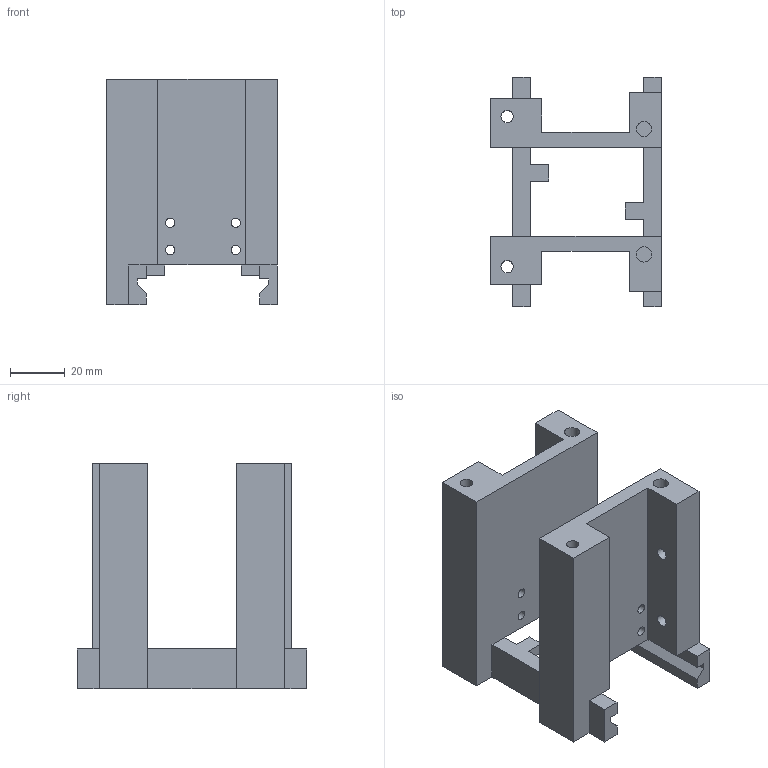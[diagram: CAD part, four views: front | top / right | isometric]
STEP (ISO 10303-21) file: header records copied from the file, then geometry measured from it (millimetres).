
FILE_DESCRIPTION(('Open CASCADE Model'),'2;1');
FILE_NAME('Open CASCADE Shape Model','2026-10-18T02:27:58',('Author'),( 'Open CASCADE'),'Open CASCADE STEP processor 7.9','Open CASCADE 7.9' ,'Unknown');
FILE_SCHEMA(('AUTOMOTIVE_DESIGN { 1 0 10303 214 1 1 1 1 }'));
Length unit declared in the file: millimetre
Products named in the file (1): Open CASCADE STEP translator 7.9 9
Bounding box: 62.5 x 84 x 82.5 mm (x, y, z)
Volume: 114817.7 mm3; surface area: 40339.8 mm2
Topology: 1 solids, 1 shells, 74 faces, 202 edges, 132 vertices
Faces by surface type: plane 56, cylinder 18
Full cylindrical faces by diameter (mm): 3.4 x8, 4.3 x4, 4.5 x2, 5.6 x2, 7.2 x2
Entity records: 5054 total; most frequent: CARTESIAN_POINT 1061, DIRECTION 704, LINE 478, VECTOR 478, ORIENTED_EDGE 404, PCURVE 404, DEFINITIONAL_REPRESENTATION 404, EDGE_CURVE 202
